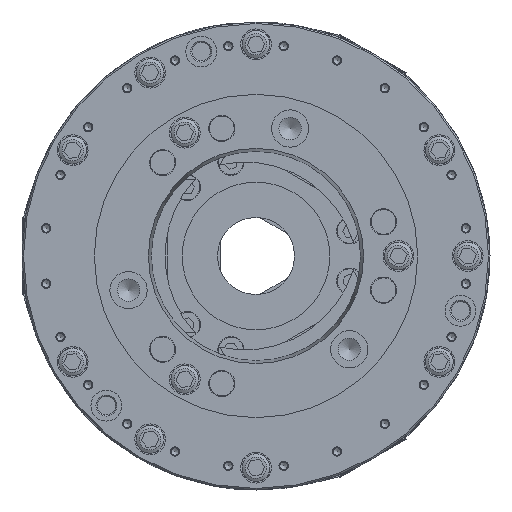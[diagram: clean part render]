
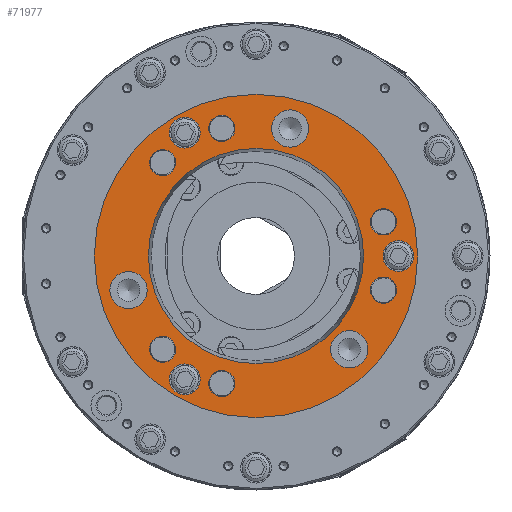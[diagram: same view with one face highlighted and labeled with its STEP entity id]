
A CAD part, left-side view. The second image highlights one B-rep face of the part: STEP entity #71977.
In plain terms, the highlighted planar face has unit normal (-1, 0, 0).
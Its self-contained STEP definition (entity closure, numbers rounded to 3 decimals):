
#204 = ORIENTED_EDGE ( 'NONE', *, *, #52361, .T. ) ;
#503 = EDGE_CURVE ( 'NONE', #62326, #62326, #70351, .T. ) ;
#2959 = AXIS2_PLACEMENT_3D ( 'NONE', #54277, #40142, #76072 ) ;
#3038 = EDGE_LOOP ( 'NONE', ( #41001 ) ) ;
#3764 = CIRCLE ( 'NONE', #4078, 8.5 ) ;
#4078 = AXIS2_PLACEMENT_3D ( 'NONE', #89604, #26287, #25992 ) ;
#7361 = AXIS2_PLACEMENT_3D ( 'NONE', #51838, #23492, #65659 ) ;
#9986 = DIRECTION ( 'NONE',  ( 1., 0., 0. ) ) ;
#10049 = CARTESIAN_POINT ( 'NONE',  ( -125., 0., -69.859 ) ) ;
#10163 = FACE_BOUND ( 'NONE', #52662, .T. ) ;
#10516 = VERTEX_POINT ( 'NONE', #40184 ) ;
#12340 = EDGE_CURVE ( 'NONE', #37004, #37004, #65141, .T. ) ;
#13033 = CARTESIAN_POINT ( 'NONE',  ( -125., 46.25, -70.107 ) ) ;
#13096 = DIRECTION ( 'NONE',  ( -1., 0., 0. ) ) ;
#13384 = CARTESIAN_POINT ( 'NONE',  ( -125., 46.25, 80.107 ) ) ;
#13432 = CARTESIAN_POINT ( 'NONE',  ( -125., -22.187, 82.804 ) ) ;
#13434 = DIRECTION ( 'NONE',  ( 0., 0., 1. ) ) ;
#13573 = CIRCLE ( 'NONE', #2959, 8.5 ) ;
#14063 = EDGE_LOOP ( 'NONE', ( #56867 ) ) ;
#14337 = EDGE_CURVE ( 'NONE', #76594, #76594, #27340, .T. ) ;
#14342 = CARTESIAN_POINT ( 'NONE',  ( -125., -83.84, 5. ) ) ;
#15580 = EDGE_CURVE ( 'NONE', #39218, #39218, #85434, .T. ) ;
#15618 = FACE_BOUND ( 'NONE', #59560, .T. ) ;
#15862 = DIRECTION ( 'NONE',  ( 1., 0., 0. ) ) ;
#17003 = EDGE_CURVE ( 'NONE', #72307, #72307, #65392, .T. ) ;
#17759 = ORIENTED_EDGE ( 'NONE', *, *, #60833, .T. ) ;
#18466 = CIRCLE ( 'NONE', #58202, 8.5 ) ;
#18502 = AXIS2_PLACEMENT_3D ( 'NONE', #65397, #15862, #51277 ) ;
#19491 = EDGE_LOOP ( 'NONE', ( #204 ) ) ;
#22408 = DIRECTION ( 'NONE',  ( 0., 0., -1. ) ) ;
#23492 = DIRECTION ( 'NONE',  ( -1., 0., 0. ) ) ;
#23672 = AXIS2_PLACEMENT_3D ( 'NONE', #50152, #51058, #22408 ) ;
#23925 = AXIS2_PLACEMENT_3D ( 'NONE', #34406, #48557, #13434 ) ;
#24490 = ORIENTED_EDGE ( 'NONE', *, *, #503, .F. ) ;
#24625 = AXIS2_PLACEMENT_3D ( 'NONE', #29847, #86107, #44021 ) ;
#25203 = EDGE_CURVE ( 'NONE', #51407, #51407, #32337, .T. ) ;
#25852 = VERTEX_POINT ( 'NONE', #90492 ) ;
#25992 = DIRECTION ( 'NONE',  ( 0., -0.866, -0.5 ) ) ;
#26287 = DIRECTION ( 'NONE',  ( -1., 0., 0. ) ) ;
#27340 = CIRCLE ( 'NONE', #50863, 8.5 ) ;
#27504 = DIRECTION ( 'NONE',  ( 0., 0.866, -0.5 ) ) ;
#28839 = FACE_OUTER_BOUND ( 'NONE', #14063, .T. ) ;
#29025 = EDGE_LOOP ( 'NONE', ( #17759 ) ) ;
#29549 = EDGE_CURVE ( 'NONE', #55798, #55798, #67769, .T. ) ;
#29847 = CARTESIAN_POINT ( 'NONE',  ( -125., 0., 0. ) ) ;
#30273 = EDGE_LOOP ( 'NONE', ( #70906 ) ) ;
#30662 = CARTESIAN_POINT ( 'NONE',  ( -125., -60.617, -60.617 ) ) ;
#31269 = DIRECTION ( 'NONE',  ( -1., 0., 0. ) ) ;
#31802 = CIRCLE ( 'NONE', #23672, 105. ) ;
#32337 = CIRCLE ( 'NONE', #45399, 12.1 ) ;
#33193 = EDGE_LOOP ( 'NONE', ( #24490 ) ) ;
#33251 = FACE_BOUND ( 'NONE', #30273, .T. ) ;
#34350 = FACE_BOUND ( 'NONE', #71991, .T. ) ;
#34406 = CARTESIAN_POINT ( 'NONE',  ( -125., 52.5, -90.933 ) ) ;
#35115 = EDGE_LOOP ( 'NONE', ( #39119 ) ) ;
#35169 = ORIENTED_EDGE ( 'NONE', *, *, #65987, .F. ) ;
#35607 = CARTESIAN_POINT ( 'NONE',  ( -125., 14.826, -78.554 ) ) ;
#35846 = EDGE_LOOP ( 'NONE', ( #86662 ) ) ;
#36160 = CARTESIAN_POINT ( 'NONE',  ( -125., 82.804, -22.187 ) ) ;
#37004 = VERTEX_POINT ( 'NONE', #42369 ) ;
#37472 = DIRECTION ( 'NONE',  ( 0., 0., 1. ) ) ;
#37763 = CARTESIAN_POINT ( 'NONE',  ( -125., 60.617, -60.617 ) ) ;
#38314 = DIRECTION ( 'NONE',  ( 0., 0.866, 0.5 ) ) ;
#39119 = ORIENTED_EDGE ( 'NONE', *, *, #82214, .F. ) ;
#39218 = VERTEX_POINT ( 'NONE', #14342 ) ;
#40142 = DIRECTION ( 'NONE',  ( 1., 0., 0. ) ) ;
#40184 = CARTESIAN_POINT ( 'NONE',  ( -125., 14.826, 78.554 ) ) ;
#40990 = FACE_BOUND ( 'NONE', #84376, .T. ) ;
#41001 = ORIENTED_EDGE ( 'NONE', *, *, #17003, .F. ) ;
#42286 = CARTESIAN_POINT ( 'NONE',  ( -125., 22.187, -82.804 ) ) ;
#42369 = CARTESIAN_POINT ( 'NONE',  ( -125., 82.804, -10.087 ) ) ;
#43202 = DIRECTION ( 'NONE',  ( 0., -0.866, 0.5 ) ) ;
#43294 = AXIS2_PLACEMENT_3D ( 'NONE', #52465, #9986, #38314 ) ;
#44021 = DIRECTION ( 'NONE',  ( 0., 0., -1. ) ) ;
#44814 = DIRECTION ( 'NONE',  ( -1., 0., 0. ) ) ;
#45399 = AXIS2_PLACEMENT_3D ( 'NONE', #30662, #44814, #73716 ) ;
#45560 = ORIENTED_EDGE ( 'NONE', *, *, #25203, .F. ) ;
#46397 = EDGE_CURVE ( 'NONE', #60133, #60133, #31802, .T. ) ;
#48447 = CARTESIAN_POINT ( 'NONE',  ( -125., -75.443, -26.437 ) ) ;
#48557 = DIRECTION ( 'NONE',  ( -1., 0., 0. ) ) ;
#50152 = CARTESIAN_POINT ( 'NONE',  ( -125., 0., 0. ) ) ;
#50689 = CARTESIAN_POINT ( 'NONE',  ( -125., -60.617, -48.517 ) ) ;
#50830 = ORIENTED_EDGE ( 'NONE', *, *, #14337, .T. ) ;
#50863 = AXIS2_PLACEMENT_3D ( 'NONE', #42286, #85310, #43202 ) ;
#50867 = FACE_BOUND ( 'NONE', #88411, .T. ) ;
#51058 = DIRECTION ( 'NONE',  ( 1., 0., 0. ) ) ;
#51277 = DIRECTION ( 'NONE',  ( 0., 0., -1. ) ) ;
#51407 = VERTEX_POINT ( 'NONE', #50689 ) ;
#51838 = CARTESIAN_POINT ( 'NONE',  ( -125., 46.25, -80.107 ) ) ;
#52361 = EDGE_CURVE ( 'NONE', #74338, #74338, #65402, .T. ) ;
#52465 = CARTESIAN_POINT ( 'NONE',  ( -125., -92.5, 0. ) ) ;
#52662 = EDGE_LOOP ( 'NONE', ( #50830 ) ) ;
#53052 = ORIENTED_EDGE ( 'NONE', *, *, #76780, .T. ) ;
#54277 = CARTESIAN_POINT ( 'NONE',  ( -125., -82.804, 22.187 ) ) ;
#54774 = AXIS2_PLACEMENT_3D ( 'NONE', #37763, #31269, #37472 ) ;
#55272 = FACE_BOUND ( 'NONE', #3038, .T. ) ;
#55534 = VERTEX_POINT ( 'NONE', #13033 ) ;
#55623 = VERTEX_POINT ( 'NONE', #81631 ) ;
#55798 = VERTEX_POINT ( 'NONE', #79512 ) ;
#55937 = DIRECTION ( 'NONE',  ( -1., 0., 0. ) ) ;
#56146 = ORIENTED_EDGE ( 'NONE', *, *, #29549, .F. ) ;
#56867 = ORIENTED_EDGE ( 'NONE', *, *, #46397, .F. ) ;
#58202 = AXIS2_PLACEMENT_3D ( 'NONE', #75549, #83783, #27504 ) ;
#58916 = VERTEX_POINT ( 'NONE', #48447 ) ;
#59560 = EDGE_LOOP ( 'NONE', ( #35169 ) ) ;
#60133 = VERTEX_POINT ( 'NONE', #60176 ) ;
#60176 = CARTESIAN_POINT ( 'NONE',  ( -125., 0., -105. ) ) ;
#60833 = EDGE_CURVE ( 'NONE', #55623, #55623, #71544, .T. ) ;
#61436 = EDGE_LOOP ( 'NONE', ( #67303 ) ) ;
#62326 = VERTEX_POINT ( 'NONE', #73151 ) ;
#63555 = DIRECTION ( 'NONE',  ( 0., 0., 1. ) ) ;
#65141 = CIRCLE ( 'NONE', #77238, 12.1 ) ;
#65392 = CIRCLE ( 'NONE', #76965, 10. ) ;
#65397 = CARTESIAN_POINT ( 'NONE',  ( -125., 60.617, 60.617 ) ) ;
#65402 = CIRCLE ( 'NONE', #24625, 69.859 ) ;
#65659 = DIRECTION ( 'NONE',  ( 0., 0., 1. ) ) ;
#65987 = EDGE_CURVE ( 'NONE', #10516, #10516, #3764, .T. ) ;
#66281 = AXIS2_PLACEMENT_3D ( 'NONE', #13432, #55937, #70089 ) ;
#67303 = ORIENTED_EDGE ( 'NONE', *, *, #12340, .F. ) ;
#67769 = CIRCLE ( 'NONE', #66281, 12.1 ) ;
#69424 = DIRECTION ( 'NONE',  ( 0., -0.866, -0.5 ) ) ;
#70089 = DIRECTION ( 'NONE',  ( 0., 0., 1. ) ) ;
#70351 = CIRCLE ( 'NONE', #54774, 8.5 ) ;
#70711 = FACE_BOUND ( 'NONE', #19491, .T. ) ;
#70906 = ORIENTED_EDGE ( 'NONE', *, *, #88910, .F. ) ;
#71544 = CIRCLE ( 'NONE', #18502, 8.5 ) ;
#71977 = ADVANCED_FACE ( 'NONE', ( #40990, #50867, #81604, #70711, #28839, #76177, #33251, #10163, #82759, #73977, #34350, #15618, #55272, #90394 ), #76531, .T. ) ;
#71991 = EDGE_LOOP ( 'NONE', ( #53052 ) ) ;
#72307 = VERTEX_POINT ( 'NONE', #78041 ) ;
#73151 = CARTESIAN_POINT ( 'NONE',  ( -125., 60.617, -52.117 ) ) ;
#73716 = DIRECTION ( 'NONE',  ( 0., 0., 1. ) ) ;
#73977 = FACE_BOUND ( 'NONE', #35846, .T. ) ;
#74338 = VERTEX_POINT ( 'NONE', #10049 ) ;
#75549 = CARTESIAN_POINT ( 'NONE',  ( -125., -82.804, -22.187 ) ) ;
#76072 = DIRECTION ( 'NONE',  ( 0., 0.866, 0.5 ) ) ;
#76177 = FACE_BOUND ( 'NONE', #33193, .T. ) ;
#76531 = PLANE ( 'NONE',  #23925 ) ;
#76594 = VERTEX_POINT ( 'NONE', #35607 ) ;
#76780 = EDGE_CURVE ( 'NONE', #25852, #25852, #13573, .T. ) ;
#76965 = AXIS2_PLACEMENT_3D ( 'NONE', #13384, #13096, #69424 ) ;
#77238 = AXIS2_PLACEMENT_3D ( 'NONE', #36160, #77375, #63555 ) ;
#77375 = DIRECTION ( 'NONE',  ( -1., 0., 0. ) ) ;
#78041 = CARTESIAN_POINT ( 'NONE',  ( -125., 37.59, 75.107 ) ) ;
#79512 = CARTESIAN_POINT ( 'NONE',  ( -125., -22.187, 94.904 ) ) ;
#81604 = FACE_BOUND ( 'NONE', #61436, .T. ) ;
#81631 = CARTESIAN_POINT ( 'NONE',  ( -125., 60.617, 52.117 ) ) ;
#82214 = EDGE_CURVE ( 'NONE', #58916, #58916, #18466, .T. ) ;
#82759 = FACE_BOUND ( 'NONE', #35115, .T. ) ;
#83783 = DIRECTION ( 'NONE',  ( -1., 0., 0. ) ) ;
#84376 = EDGE_LOOP ( 'NONE', ( #56146 ) ) ;
#85170 = CIRCLE ( 'NONE', #7361, 10. ) ;
#85310 = DIRECTION ( 'NONE',  ( 1., 0., 0. ) ) ;
#85434 = CIRCLE ( 'NONE', #43294, 10. ) ;
#86107 = DIRECTION ( 'NONE',  ( 1., 0., 0. ) ) ;
#86662 = ORIENTED_EDGE ( 'NONE', *, *, #15580, .T. ) ;
#88411 = EDGE_LOOP ( 'NONE', ( #45560 ) ) ;
#88910 = EDGE_CURVE ( 'NONE', #55534, #55534, #85170, .T. ) ;
#89604 = CARTESIAN_POINT ( 'NONE',  ( -125., 22.187, 82.804 ) ) ;
#90394 = FACE_BOUND ( 'NONE', #29025, .T. ) ;
#90492 = CARTESIAN_POINT ( 'NONE',  ( -125., -75.443, 26.437 ) ) ;
